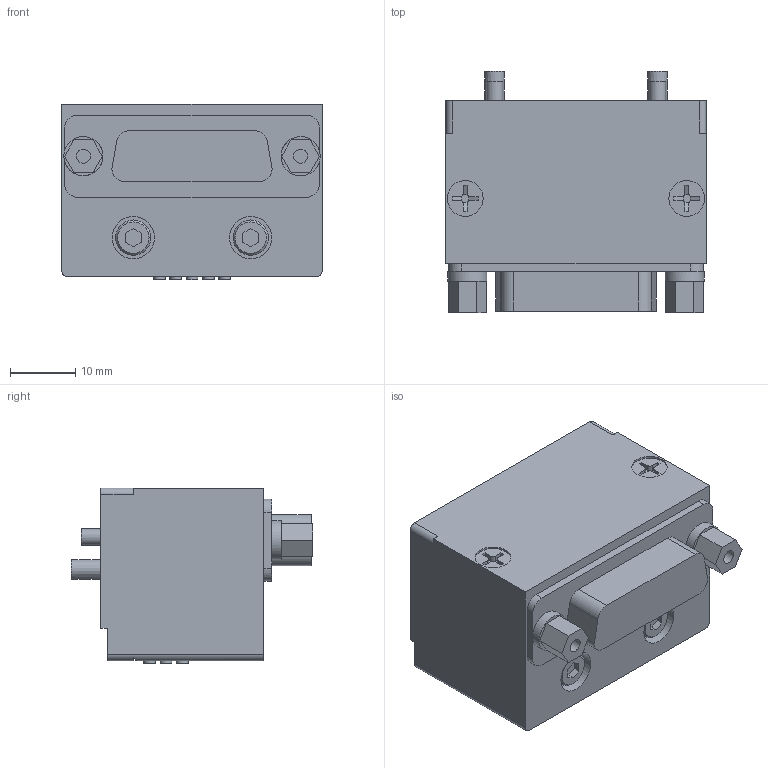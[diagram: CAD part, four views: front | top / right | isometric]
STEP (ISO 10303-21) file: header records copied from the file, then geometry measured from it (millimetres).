
FILE_DESCRIPTION(('STEP AP214'),'1');
FILE_NAME('KHB-7_25RS-D315C_ver1.stp','2026-04-27T00:47:56',(' '),(' '),'Spatial InterOp 3D',' ',' ');
FILE_SCHEMA(('AUTOMOTIVE_DESIGN { 1 0 10303 214 1 1 1 1 }'));
Length unit declared in the file: millimetre
Products named in the file (3): KHB-7~25RS-D315C_ver1; パーツ1
Assembly tree (2 placements, depth 2):
  KHB-7~25RS-D315C_ver1
    パーツ1
    パーツ1
Bounding box: 40 x 37 x 27 mm (x, y, z)
Volume: 27812.7 mm3; surface area: 8556.9 mm2
Topology: 2 solids, 13 shells, 344 faces, 717 edges, 476 vertices
Faces by surface type: plane 226, cylinder 106, cone 12
Full cylindrical faces by diameter (mm): 1.02 x15, 1.8 x15, 2 x17, 2.15 x6, 2.5 x5, 3 x4, 3.05 x2, 3.2 x2, 3.5 x4, 5.41 x4, 5.5 x2, 5.8 x2, 6 x2, 6.5 x2
Entity records: 11291 total; most frequent: DIRECTION 1521, CARTESIAN_POINT 1430, ORIENTED_EDGE 1190, EDGE_CURVE 595, AXIS2_PLACEMENT_3D 581, EDGE_LOOP 523, VERTEX_POINT 448, FACE_OUTER_BOUND 426
